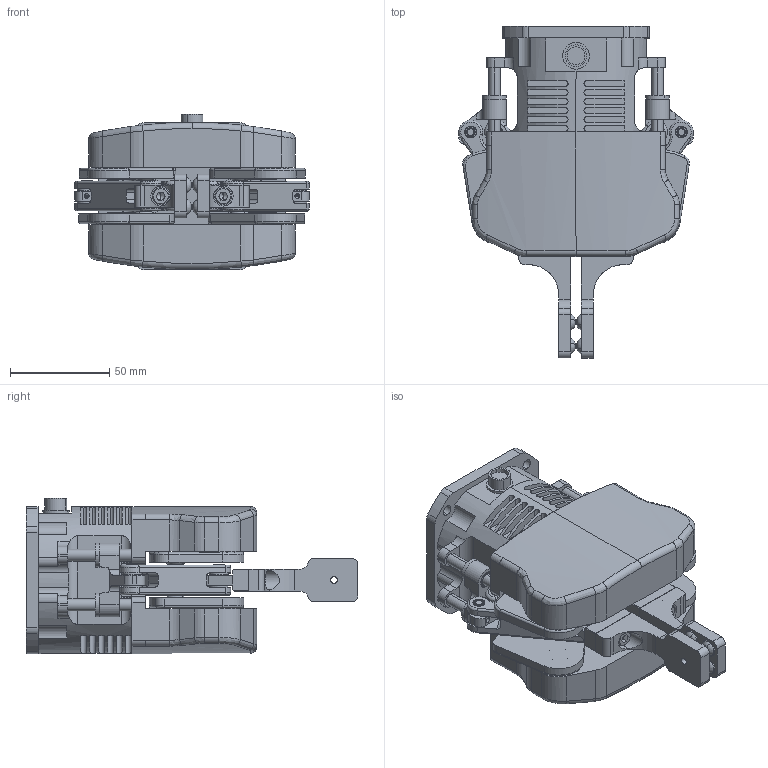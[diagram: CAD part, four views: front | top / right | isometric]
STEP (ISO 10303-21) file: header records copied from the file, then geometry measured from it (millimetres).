
FILE_DESCRIPTION (( 'STEP AP203' ), '1' );
FILE_NAME ('SusGrip_2F_Close.STEP', '2025-04-03T03:55:46', ( '' ), ( '' ), 'SwSTEP 2.0', 'SolidWorks 2021', '' );
FILE_SCHEMA (( 'CONFIG_CONTROL_DESIGN' ));
Products named in the file (1): SusGrip_2F_Close
Bounding box: 118 x 167 x 78.1 mm (x, y, z)
Volume: 559524.3 mm3; surface area: 134095.9 mm2
Topology: 68 solids, 68 shells, 2248 faces, 5118 edges, 3084 vertices
Faces by surface type: cylinder 902, plane 637, cone 502, torus 183, bspline 24
Entity records: 65796 total; most frequent: CARTESIAN_POINT 13805, DIRECTION 11871, ORIENTED_EDGE 10060, EDGE_CURVE 5030, AXIS2_PLACEMENT_3D 4778, VERTEX_POINT 3084, EDGE_LOOP 2578, CIRCLE 2553
